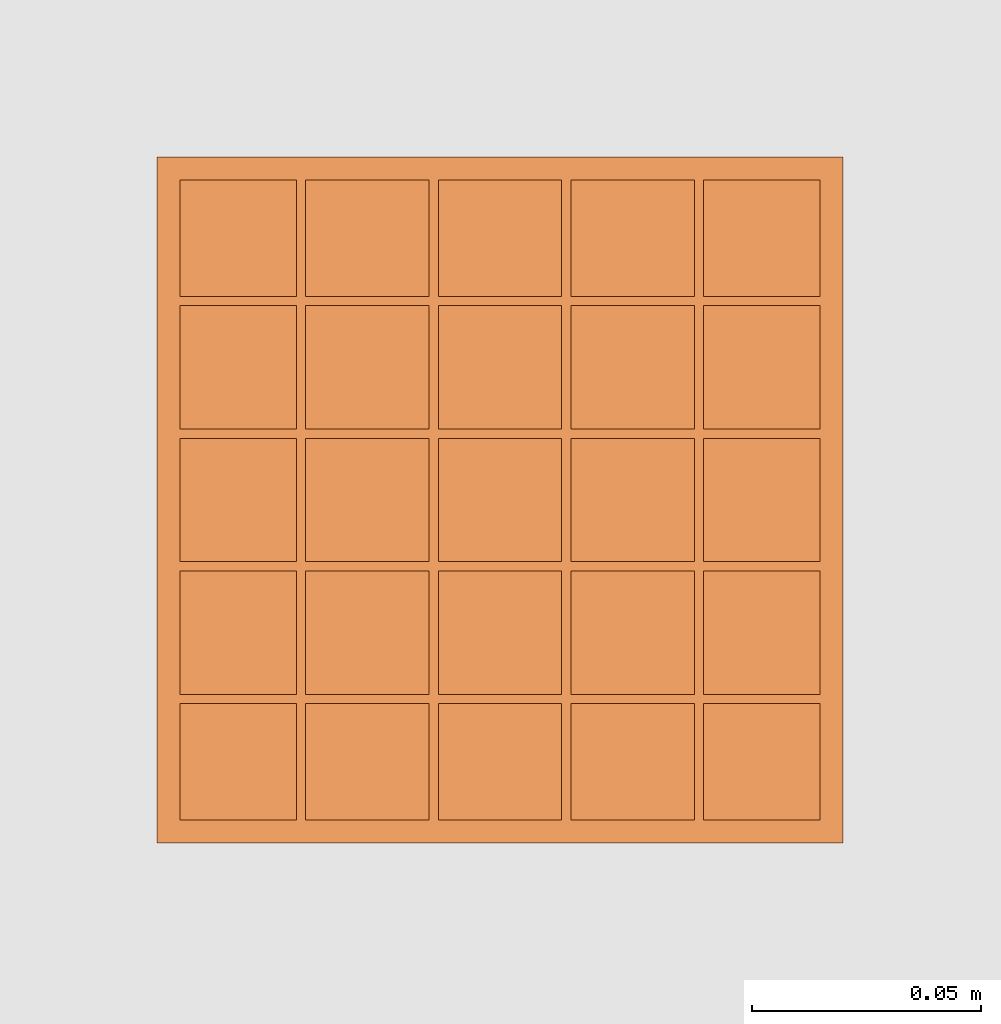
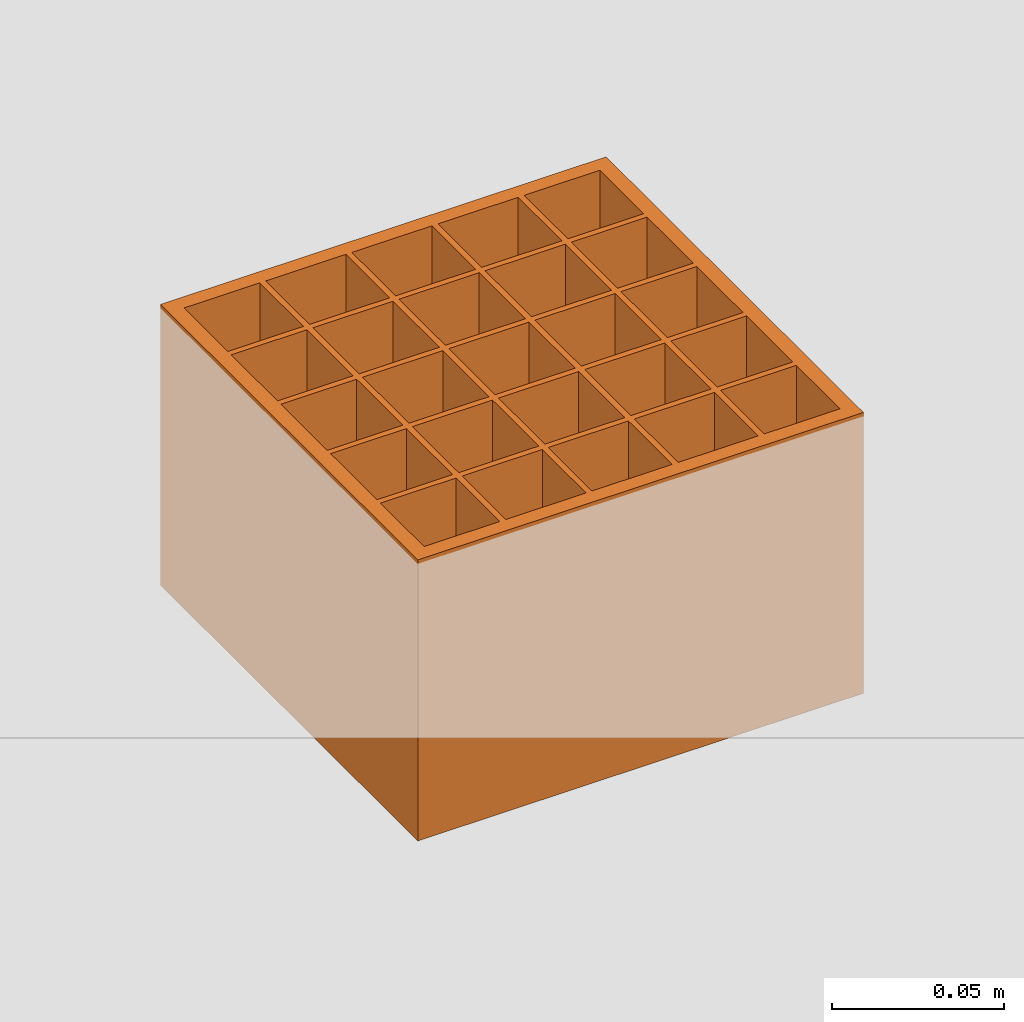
# One storey, part 89 of 112: 1 proxy.
"""IFC2X3 building model written with IfcOpenShell, lengths in millimetres."""

import ifcopenshell
import ifcopenshell.guid

model = None  # the IFC model being written
_history = None  # IfcOwnerHistory: only IFC2X3 demands one
_inside = {}  # id of a spatial element -> (the spatial element, [elements in it])
_under = {}  # id of a project, library or spatial element -> (it, [spatial elements below it])
_declared = {}  # id of a project -> (the project, [libraries it declares])
_typed = {}  # id of a type object -> (the type object, [elements of that type])
_made_of = {}  # id of a material, layer set ... -> (it, [elements and type objects made of it])


def new_model(schema):
    """Start an empty IFC model of exactly this schema.

    Asked for "IFC4X3", IfcOpenShell would pick the latest addendum, in which some entities
    have other attributes; the version numbers below select the first issue.
    IFC2X3 requires an IfcOwnerHistory on every rooted entity: one is made here for all.
    """
    global model, _history
    if schema == "IFC4X3":
        model = ifcopenshell.file(schema_version=(4, 3, 0, 0))
    else:
        model = ifcopenshell.file(schema=schema)
    _inside.clear()
    _under.clear()
    _declared.clear()
    _typed.clear()
    _made_of.clear()
    _history = None
    if model.schema == "IFC2X3":
        org = make("IfcOrganization", Name="unknown")
        user = make(
            "IfcPersonAndOrganization",
            ThePerson=make("IfcPerson", FamilyName="unknown"),
            TheOrganization=org,
        )
        app = make(
            "IfcApplication",
            ApplicationDeveloper=org,
            Version="unknown",
            ApplicationFullName="unknown",
            ApplicationIdentifier="unknown",
        )
        _history = make(
            "IfcOwnerHistory",
            OwningUser=user,
            OwningApplication=app,
            ChangeAction="ADDED",
            CreationDate=0,
        )
    return model


def make(cls, **values):
    """One entity of the class cls with the attributes given. An attribute that is None is left unset."""
    return model.create_entity(
        cls, **{name: value for name, value in values.items() if value is not None}
    )


def entity(cls, *values):
    """Any entity or typed value of the class cls, its attributes in the order of the schema. None: left unset."""
    e = model.create_entity(cls)
    for i, value in enumerate(values):
        if value is not None:
            e[i] = value
    return e


def rooted(cls, **values):
    """An entity with a GlobalId (a new one), such as an element, a storey or a relation."""
    return make(cls, GlobalId=ifcopenshell.guid.new(), OwnerHistory=_history, **values)


def si_unit(unit_type, name, prefix=None):
    """IfcSIUnit, for example si_unit("LENGTHUNIT", "METRE", prefix="MILLI")."""
    return make("IfcSIUnit", UnitType=unit_type, Prefix=prefix, Name=name)


def converted_unit(unit_type, name, factor, base, dimensions=None, offset=None):
    """IfcConversionBasedUnit, such as the inch: factor (a typed value) times the base unit."""
    return make(
        "IfcConversionBasedUnit"
        if offset is None
        else "IfcConversionBasedUnitWithOffset",
        ConversionOffset=offset,
        Dimensions=None
        if dimensions is None
        else entity("IfcDimensionalExponents", *dimensions),
        UnitType=unit_type,
        Name=name,
        ConversionFactor=make(
            "IfcMeasureWithUnit", ValueComponent=factor, UnitComponent=base
        ),
    )


def derived_unit(unit_type, elements):
    """IfcDerivedUnit: a product of units, each with its exponent."""
    return make(
        "IfcDerivedUnit",
        Elements=[
            make("IfcDerivedUnitElement", Unit=unit, Exponent=power)
            for unit, power in elements
        ],
        UnitType=unit_type,
    )


def money_unit(currency):
    """IfcMonetaryUnit."""
    return make("IfcMonetaryUnit", Currency=currency)


def assignment(units):
    """IfcUnitAssignment: the units of a project."""
    return None if units is None else make("IfcUnitAssignment", Units=units)


def point(xyz):
    """IfcCartesianPoint."""
    return None if xyz is None else make("IfcCartesianPoint", Coordinates=xyz)


def direction(xyz):
    """IfcDirection."""
    return None if xyz is None else make("IfcDirection", DirectionRatios=xyz)


def frame(location, z_axis=None, x_axis=None):
    """IfcAxis2Placement3D, a coordinate frame: its origin and axes. An axis left out is left unset."""
    return make(
        "IfcAxis2Placement3D",
        Location=point(location),
        Axis=direction(z_axis),
        RefDirection=direction(x_axis),
    )


def origin_with_axes():
    """The frame at (0, 0, 0) with the z axis (0, 0, 1) and the x axis (1, 0, 0) written out."""
    return frame((0.0, 0.0, 0.0), z_axis=(0.0, 0.0, 1.0), x_axis=(1.0, 0.0, 0.0))


def place(relative_to, where):
    """IfcLocalPlacement: puts the frame where relative to a parent placement (None: the world)."""
    return make(
        "IfcLocalPlacement", PlacementRelTo=relative_to, RelativePlacement=where
    )


def context(
    kind, dimensions, precision=None, world=None, true_north=None, identifier=None
):
    """IfcGeometricRepresentationContext, for example the 3D "Model" context."""
    return make(
        "IfcGeometricRepresentationContext",
        ContextIdentifier=identifier,
        ContextType=kind,
        CoordinateSpaceDimension=dimensions,
        Precision=precision,
        WorldCoordinateSystem=world,
        TrueNorth=true_north,
    )


def subcontext(parent, identifier, kind, view, scale=None):
    """IfcGeometricRepresentationSubContext, for example "Body" below "Model"."""
    return make(
        "IfcGeometricRepresentationSubContext",
        ContextIdentifier=identifier,
        ContextType=kind,
        ParentContext=parent,
        TargetScale=scale,
        TargetView=view,
    )


def project(units=None, contexts=None):
    """IfcProject with its units and contexts."""
    return rooted(
        "IfcProject",
        Name="project",
        RepresentationContexts=contexts,
        UnitsInContext=assignment(units),
    )


def spatial(cls, under=None, at=None, **own):
    """A site, building, storey or space (cls), placed at a placement, below another one or the project."""
    s = rooted(cls, ObjectPlacement=at, **own)
    if under is not None:
        _under.setdefault(under.id(), (under, []))[1].append(s)
    return s


def faces_of(points, faces, orient=None, outer=None):
    """IfcFace entities. A face is a list of loops; a loop is a list of indices into points, from 0.

    orient and outer hold one flag for each loop. By default every Orientation is true, the
    first loop of a face is its IfcFaceOuterBound and the others are IfcFaceBound.
    """
    made = []
    for i, loops in enumerate(faces):
        bounds = []
        for j, loop in enumerate(loops):
            is_outer = j == 0 if outer is None else outer[i][j]
            bounds.append(
                make(
                    "IfcFaceOuterBound" if is_outer else "IfcFaceBound",
                    Bound=make("IfcPolyLoop", Polygon=[points[k] for k in loop]),
                    Orientation=True if orient is None else orient[i][j],
                )
            )
        made.append(make("IfcFace", Bounds=bounds))
    return made


def faceted_brep(points, faces, orient=None, outer=None, voids=None):
    """IfcFacetedBrep: a solid bounded by flat faces; with voids (closed shells), ...WithVoids."""
    shared = [point(p) for p in points]
    hull = make("IfcClosedShell", CfsFaces=faces_of(shared, faces, orient, outer))
    if voids is None:
        return make("IfcFacetedBrep", Outer=hull)
    return make(
        "IfcFacetedBrepWithVoids",
        Outer=hull,
        Voids=[
            make(cls, CfsFaces=faces_of(shared, fs, o, b)) for cls, fs, o, b in voids
        ],
    )


def shape(context_of_items, identifier, shape_type, items):
    """IfcShapeRepresentation: the items that make up one representation, for example the "Body"."""
    return make(
        "IfcShapeRepresentation",
        ContextOfItems=context_of_items,
        RepresentationIdentifier=identifier,
        RepresentationType=shape_type,
        Items=items,
    )


def source(mapping_origin, context_of_items, identifier, shape_type, items):
    """IfcRepresentationMap: a shape defined once, which mapped items show again and again."""
    return make(
        "IfcRepresentationMap",
        MappingOrigin=mapping_origin,
        MappedRepresentation=shape(context_of_items, identifier, shape_type, items),
    )


def transform(
    local_origin,
    x_axis=None,
    y_axis=None,
    z_axis=None,
    scale=None,
    scale2=None,
    scale3=None,
    uniform=True,
):
    """IfcCartesianTransformationOperator3D, or its non-uniform kind. x_axis, y_axis, z_axis: its Axis1, 2, 3."""
    if uniform:
        return make(
            "IfcCartesianTransformationOperator3D",
            Axis1=direction(x_axis),
            Axis2=direction(y_axis),
            LocalOrigin=point(local_origin),
            Scale=scale,
            Axis3=direction(z_axis),
        )
    return make(
        "IfcCartesianTransformationOperator3DnonUniform",
        Axis1=direction(x_axis),
        Axis2=direction(y_axis),
        LocalOrigin=point(local_origin),
        Scale=scale,
        Axis3=direction(z_axis),
        Scale2=scale2,
        Scale3=scale3,
    )


def mapped(mapping_source, mapping_target):
    """IfcMappedItem: shows the shape of a source again, moved by a transform."""
    return make(
        "IfcMappedItem", MappingSource=mapping_source, MappingTarget=mapping_target
    )


def made_of(thing, what):
    """Note that an element or type object is made of a material, layer set ...; save() writes the relation."""
    if what is not None:
        _made_of.setdefault(what.id(), (what, []))[1].append(thing)
    return thing


def type_object(cls, material=None, **own):
    """A type object (cls), such as IfcWallType, which elements share."""
    return made_of(rooted(cls, **own), material)


def element(
    cls,
    number,
    at=None,
    inside=None,
    cuts=None,
    type_object=None,
    material=None,
    context=None,
    identifier="Body",
    shape_type=None,
    held_by="IfcProductDefinitionShape",
    body=None,
    shapes=None,
    **own,
):
    """One element of the class cls, such as IfcWall. Its Tag is "e" and its number.

    at: its placement. inside: the storey or other place that contains it. cuts: it is an
    opening in that element (IfcRelVoidsElement). A single representation is given by context,
    identifier, shape_type and body (its items); several are given by shapes. held_by: the class
    of the entity that holds the representations. save() writes the other relations.
    """
    e = rooted(cls, Tag="e%d" % number, ObjectPlacement=at, **own)
    if body is not None:
        shapes = [shape(context, identifier, shape_type, body)]
    if shapes is not None:
        e.Representation = make(held_by, Representations=shapes)
    if inside is not None:
        _inside.setdefault(inside.id(), (inside, []))[1].append(e)
    if cuts is not None:
        rooted(
            "IfcRelVoidsElement", RelatingBuildingElement=cuts, RelatedOpeningElement=e
        )
    if type_object is not None:
        _typed.setdefault(type_object.id(), (type_object, []))[1].append(e)
    return made_of(e, material)


def aggregate(whole, parts):
    """IfcRelAggregates: a whole, such as a stair, and the parts it consists of."""
    return rooted("IfcRelAggregates", RelatingObject=whole, RelatedObjects=parts)


def save(model, path):
    """Write the relations noted so far, then the file.

    IfcRelAggregates (storeys below a building ...), IfcRelContainedInSpatialStructure (elements
    in a storey), IfcRelDefinesByType, IfcRelAssociatesMaterial and IfcRelDeclares: one each for
    every whole, place, type object, material and project.
    """
    for whole, parts in _under.values():
        aggregate(whole, parts)
    for where, things in _inside.values():
        rooted(
            "IfcRelContainedInSpatialStructure",
            RelatedElements=things,
            RelatingStructure=where,
        )
    for kind, things in _typed.values():
        rooted("IfcRelDefinesByType", RelatedObjects=things, RelatingType=kind)
    for what, things in _made_of.values():
        rooted("IfcRelAssociatesMaterial", RelatedObjects=things, RelatingMaterial=what)
    for by, libraries in _declared.values():
        rooted("IfcRelDeclares", RelatingContext=by, RelatedDefinitions=libraries)
    model.write(path)


model = new_model("IFC2X3")

# Units and contexts
model_context = context("Model", 3, precision=0.01, world=origin_with_axes(), true_north=direction((0.0, 1.0)))
body_context = subcontext(model_context, "Body", "Model", "MODEL_VIEW")
ifc_project = project(units=[si_unit("LENGTHUNIT", "METRE", prefix="MILLI"), si_unit("AREAUNIT", "SQUARE_METRE"), si_unit("VOLUMEUNIT", "CUBIC_METRE"), converted_unit("PLANEANGLEUNIT", "DEGREE", entity("IfcPlaneAngleMeasure", 0.0174532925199), si_unit("PLANEANGLEUNIT", "RADIAN"), dimensions=[0, 0, 0, 0, 0, 0, 0]), si_unit("SOLIDANGLEUNIT", "STERADIAN"), money_unit("EUR"), converted_unit("TIMEUNIT", "Year", entity("IfcTimeMeasure", 31556926.0), si_unit("TIMEUNIT", "SECOND"), dimensions=[0, 0, 1, 0, 0, 0, 0]), si_unit("MASSUNIT", "GRAM", prefix="KILO"), si_unit("THERMODYNAMICTEMPERATUREUNIT", "DEGREE_CELSIUS"), si_unit("LUMINOUSINTENSITYUNIT", "LUMEN"), si_unit("ENERGYUNIT", "JOULE", prefix="MEGA"), derived_unit("THERMALCONDUCTANCEUNIT", [(si_unit("POWERUNIT", "WATT"), 1), (si_unit("LENGTHUNIT", "METRE"), -1), (si_unit("THERMODYNAMICTEMPERATUREUNIT", "KELVIN"), -1)]), derived_unit("SPECIFICHEATCAPACITYUNIT", [(si_unit("ENERGYUNIT", "JOULE"), 1), (si_unit("MASSUNIT", "GRAM", prefix="KILO"), -1), (si_unit("THERMODYNAMICTEMPERATUREUNIT", "KELVIN"), -1)]), derived_unit("MASSDENSITYUNIT", [(si_unit("MASSUNIT", "GRAM", prefix="KILO"), 1), (si_unit("VOLUMEUNIT", "CUBIC_METRE"), -1)])], contexts=[model_context])

# Site, building, storey
site_placement = place(None, origin_with_axes())
site = spatial("IfcSite", under=ifc_project, at=site_placement, Name="Politse- ja Piirivalveameti ning Päästeameti ühishoone", CompositionType="ELEMENT")
building_placement = place(site_placement, origin_with_axes())
building = spatial("IfcBuilding", under=site, at=building_placement, Name="Politse- ja Piirivalveameti ning Päästeameti ühishoone", CompositionType="ELEMENT")
storey_placement = place(building_placement, origin_with_axes())
storey = spatial("IfcBuildingStorey", under=building, at=storey_placement, Name="Esimene korrus", CompositionType="ELEMENT", Elevation=0.0)

# Proxy
building_element_proxy_type = type_object("IfcBuildingElementProxyType", Name="Grid 23", PredefinedType="NOTDEFINED")
shared_shape = source(origin_with_axes(), body_context, "Body", "Brep", [
    faceted_brep([(0.0, 0.0, 0.0), (5.0, 5.0, 0.0), (5.0, 5.0, 100.0), (0.0, 0.0, 100.0), (0.0, 150.0, 0.0), (5.0, 145.0, 0.0), (5.0, 119.5, 0.0), (5.0, 117.5, 0.0), (5.0, 90.5, 0.0), (5.0, 88.5, 0.0), (5.0, 61.5, 0.0), (5.0, 59.5, 0.0), (5.0, 32.5, 0.0), (5.0, 30.5, 0.0), (5.0, 30.5, 100.0), (5.0, 32.5, 100.0), (5.0, 59.5, 100.0), (5.0, 61.5, 100.0), (5.0, 88.5, 100.0), (5.0, 90.5, 100.0), (5.0, 117.5, 100.0), (5.0, 119.5, 100.0), (5.0, 145.0, 100.0), (0.0, 150.0, 100.0)], [[[0, 1, 2, 3]], [[0, 4, 5, 6, 7, 8, 9, 10, 11, 12, 13, 1]], [[1, 13, 14, 2]], [[3, 2, 14, 15, 16, 17, 18, 19, 20, 21, 22, 23]], [[4, 0, 3, 23]], [[5, 4, 23, 22]], [[6, 5, 22, 21]], [[7, 6, 21, 20]], [[8, 7, 20, 19]], [[9, 8, 19, 18]], [[10, 9, 18, 17]], [[11, 10, 17, 16]], [[12, 11, 16, 15]], [[13, 12, 15, 14]]]),
    faceted_brep([(150.0, 150.0, 0.0), (145.0, 145.0, 0.0), (145.0, 145.0, 100.0), (150.0, 150.0, 100.0), (150.0, 0.0, 0.0), (145.0, 5.0, 0.0), (145.0, 30.5, 0.0), (145.0, 32.5, 0.0), (145.0, 59.5, 0.0), (145.0, 61.5, 0.0), (145.0, 88.5, 0.0), (145.0, 90.5, 0.0), (145.0, 117.5, 0.0), (145.0, 119.5, 0.0), (145.0, 119.5, 100.0), (145.0, 117.5, 100.0), (145.0, 90.5, 100.0), (145.0, 88.5, 100.0), (145.0, 61.5, 100.0), (145.0, 59.5, 100.0), (145.0, 32.5, 100.0), (145.0, 30.5, 100.0), (145.0, 5.0, 100.0), (150.0, 0.0, 100.0)], [[[0, 1, 2, 3]], [[0, 4, 5, 6, 7, 8, 9, 10, 11, 12, 13, 1]], [[1, 13, 14, 2]], [[3, 2, 14, 15, 16, 17, 18, 19, 20, 21, 22, 23]], [[4, 0, 3, 23]], [[5, 4, 23, 22]], [[6, 5, 22, 21]], [[7, 6, 21, 20]], [[8, 7, 20, 19]], [[9, 8, 19, 18]], [[10, 9, 18, 17]], [[11, 10, 17, 16]], [[12, 11, 16, 15]], [[13, 12, 15, 14]]]),
    faceted_brep([(150.0, 0.0, 0.0), (145.0, 5.0, 0.0), (145.0, 5.0, 100.0), (150.0, 0.0, 100.0), (0.0, 0.0, 0.0), (5.0, 5.0, 0.0), (30.5, 5.0, 0.0), (32.5, 5.0, 0.0), (59.5, 5.0, 0.0), (61.5, 5.0, 0.0), (88.5, 5.0, 0.0), (90.5, 5.0, 0.0), (117.5, 5.0, 0.0), (119.5, 5.0, 0.0), (119.5, 5.0, 100.0), (117.5, 5.0, 100.0), (90.5, 5.0, 100.0), (88.5, 5.0, 100.0), (61.5, 5.0, 100.0), (59.5, 5.0, 100.0), (32.5, 5.0, 100.0), (30.5, 5.0, 100.0), (5.0, 5.0, 100.0), (0.0, 0.0, 100.0)], [[[0, 1, 2, 3]], [[0, 4, 5, 6, 7, 8, 9, 10, 11, 12, 13, 1]], [[1, 13, 14, 2]], [[3, 2, 14, 15, 16, 17, 18, 19, 20, 21, 22, 23]], [[4, 0, 3, 23]], [[5, 4, 23, 22]], [[6, 5, 22, 21]], [[7, 6, 21, 20]], [[8, 7, 20, 19]], [[9, 8, 19, 18]], [[10, 9, 18, 17]], [[11, 10, 17, 16]], [[12, 11, 16, 15]], [[13, 12, 15, 14]]]),
    faceted_brep([(0.0, 150.0, 0.0), (5.0, 145.0, 0.0), (5.0, 145.0, 100.0), (0.0, 150.0, 100.0), (150.0, 150.0, 0.0), (145.0, 145.0, 0.0), (119.5, 145.0, 0.0), (117.5, 145.0, 0.0), (90.5, 145.0, 0.0), (88.5, 145.0, 0.0), (61.5, 145.0, 0.0), (59.5, 145.0, 0.0), (32.5, 145.0, 0.0), (30.5, 145.0, 0.0), (30.5, 145.0, 100.0), (32.5, 145.0, 100.0), (59.5, 145.0, 100.0), (61.5, 145.0, 100.0), (88.5, 145.0, 100.0), (90.5, 145.0, 100.0), (117.5, 145.0, 100.0), (119.5, 145.0, 100.0), (145.0, 145.0, 100.0), (150.0, 150.0, 100.0)], [[[0, 1, 2, 3]], [[0, 4, 5, 6, 7, 8, 9, 10, 11, 12, 13, 1]], [[1, 13, 14, 2]], [[3, 2, 14, 15, 16, 17, 18, 19, 20, 21, 22, 23]], [[4, 0, 3, 23]], [[5, 4, 23, 22]], [[6, 5, 22, 21]], [[7, 6, 21, 20]], [[8, 7, 20, 19]], [[9, 8, 19, 18]], [[10, 9, 18, 17]], [[11, 10, 17, 16]], [[12, 11, 16, 15]], [[13, 12, 15, 14]]]),
    faceted_brep([(30.5, 5.0, 0.0), (32.5, 5.0, 0.0), (32.5, 5.0, 100.0), (30.5, 5.0, 100.0), (30.5, 30.5, 0.0), (30.5, 32.5, 0.0), (30.5, 59.5, 0.0), (30.5, 61.5, 0.0), (30.5, 88.5, 0.0), (30.5, 90.5, 0.0), (30.5, 117.5, 0.0), (30.5, 119.5, 0.0), (30.5, 145.0, 0.0), (32.5, 145.0, 0.0), (32.5, 119.5, 0.0), (32.5, 117.5, 0.0), (32.5, 90.5, 0.0), (32.5, 88.5, 0.0), (32.5, 61.5, 0.0), (32.5, 59.5, 0.0), (32.5, 32.5, 0.0), (32.5, 30.5, 0.0), (32.5, 30.5, 100.0), (32.5, 32.5, 100.0), (32.5, 59.5, 100.0), (32.5, 61.5, 100.0), (32.5, 88.5, 100.0), (32.5, 90.5, 100.0), (32.5, 117.5, 100.0), (32.5, 119.5, 100.0), (32.5, 145.0, 100.0), (30.5, 145.0, 100.0), (30.5, 119.5, 100.0), (30.5, 117.5, 100.0), (30.5, 90.5, 100.0), (30.5, 88.5, 100.0), (30.5, 61.5, 100.0), (30.5, 59.5, 100.0), (30.5, 32.5, 100.0), (30.5, 30.5, 100.0)], [[[0, 1, 2, 3]], [[0, 4, 5, 6, 7, 8, 9, 10, 11, 12, 13, 14, 15, 16, 17, 18, 19, 20, 21, 1]], [[1, 21, 22, 2]], [[3, 2, 22, 23, 24, 25, 26, 27, 28, 29, 30, 31, 32, 33, 34, 35, 36, 37, 38, 39]], [[4, 0, 3, 39]], [[5, 4, 39, 38]], [[6, 5, 38, 37]], [[7, 6, 37, 36]], [[8, 7, 36, 35]], [[9, 8, 35, 34]], [[10, 9, 34, 33]], [[11, 10, 33, 32]], [[12, 11, 32, 31]], [[13, 12, 31, 30]], [[14, 13, 30, 29]], [[15, 14, 29, 28]], [[16, 15, 28, 27]], [[17, 16, 27, 26]], [[18, 17, 26, 25]], [[19, 18, 25, 24]], [[20, 19, 24, 23]], [[21, 20, 23, 22]]]),
    faceted_brep([(59.5, 5.0, 0.0), (61.5, 5.0, 0.0), (61.5, 5.0, 100.0), (59.5, 5.0, 100.0), (59.5, 30.5, 0.0), (59.5, 32.5, 0.0), (59.5, 59.5, 0.0), (59.5, 61.5, 0.0), (59.5, 88.5, 0.0), (59.5, 90.5, 0.0), (59.5, 117.5, 0.0), (59.5, 119.5, 0.0), (59.5, 145.0, 0.0), (61.5, 145.0, 0.0), (61.5, 119.5, 0.0), (61.5, 117.5, 0.0), (61.5, 90.5, 0.0), (61.5, 88.5, 0.0), (61.5, 61.5, 0.0), (61.5, 59.5, 0.0), (61.5, 32.5, 0.0), (61.5, 30.5, 0.0), (61.5, 30.5, 100.0), (61.5, 32.5, 100.0), (61.5, 59.5, 100.0), (61.5, 61.5, 100.0), (61.5, 88.5, 100.0), (61.5, 90.5, 100.0), (61.5, 117.5, 100.0), (61.5, 119.5, 100.0), (61.5, 145.0, 100.0), (59.5, 145.0, 100.0), (59.5, 119.5, 100.0), (59.5, 117.5, 100.0), (59.5, 90.5, 100.0), (59.5, 88.5, 100.0), (59.5, 61.5, 100.0), (59.5, 59.5, 100.0), (59.5, 32.5, 100.0), (59.5, 30.5, 100.0)], [[[0, 1, 2, 3]], [[0, 4, 5, 6, 7, 8, 9, 10, 11, 12, 13, 14, 15, 16, 17, 18, 19, 20, 21, 1]], [[1, 21, 22, 2]], [[3, 2, 22, 23, 24, 25, 26, 27, 28, 29, 30, 31, 32, 33, 34, 35, 36, 37, 38, 39]], [[4, 0, 3, 39]], [[5, 4, 39, 38]], [[6, 5, 38, 37]], [[7, 6, 37, 36]], [[8, 7, 36, 35]], [[9, 8, 35, 34]], [[10, 9, 34, 33]], [[11, 10, 33, 32]], [[12, 11, 32, 31]], [[13, 12, 31, 30]], [[14, 13, 30, 29]], [[15, 14, 29, 28]], [[16, 15, 28, 27]], [[17, 16, 27, 26]], [[18, 17, 26, 25]], [[19, 18, 25, 24]], [[20, 19, 24, 23]], [[21, 20, 23, 22]]]),
    faceted_brep([(88.5, 5.0, 0.0), (90.5, 5.0, 0.0), (90.5, 5.0, 100.0), (88.5, 5.0, 100.0), (88.5, 30.5, 0.0), (88.5, 32.5, 0.0), (88.5, 59.5, 0.0), (88.5, 61.5, 0.0), (88.5, 88.5, 0.0), (88.5, 90.5, 0.0), (88.5, 117.5, 0.0), (88.5, 119.5, 0.0), (88.5, 145.0, 0.0), (90.5, 145.0, 0.0), (90.5, 119.5, 0.0), (90.5, 117.5, 0.0), (90.5, 90.5, 0.0), (90.5, 88.5, 0.0), (90.5, 61.5, 0.0), (90.5, 59.5, 0.0), (90.5, 32.5, 0.0), (90.5, 30.5, 0.0), (90.5, 30.5, 100.0), (90.5, 32.5, 100.0), (90.5, 59.5, 100.0), (90.5, 61.5, 100.0), (90.5, 88.5, 100.0), (90.5, 90.5, 100.0), (90.5, 117.5, 100.0), (90.5, 119.5, 100.0), (90.5, 145.0, 100.0), (88.5, 145.0, 100.0), (88.5, 119.5, 100.0), (88.5, 117.5, 100.0), (88.5, 90.5, 100.0), (88.5, 88.5, 100.0), (88.5, 61.5, 100.0), (88.5, 59.5, 100.0), (88.5, 32.5, 100.0), (88.5, 30.5, 100.0)], [[[0, 1, 2, 3]], [[0, 4, 5, 6, 7, 8, 9, 10, 11, 12, 13, 14, 15, 16, 17, 18, 19, 20, 21, 1]], [[1, 21, 22, 2]], [[3, 2, 22, 23, 24, 25, 26, 27, 28, 29, 30, 31, 32, 33, 34, 35, 36, 37, 38, 39]], [[4, 0, 3, 39]], [[5, 4, 39, 38]], [[6, 5, 38, 37]], [[7, 6, 37, 36]], [[8, 7, 36, 35]], [[9, 8, 35, 34]], [[10, 9, 34, 33]], [[11, 10, 33, 32]], [[12, 11, 32, 31]], [[13, 12, 31, 30]], [[14, 13, 30, 29]], [[15, 14, 29, 28]], [[16, 15, 28, 27]], [[17, 16, 27, 26]], [[18, 17, 26, 25]], [[19, 18, 25, 24]], [[20, 19, 24, 23]], [[21, 20, 23, 22]]]),
    faceted_brep([(117.5, 5.0, 0.0), (119.5, 5.0, 0.0), (119.5, 5.0, 100.0), (117.5, 5.0, 100.0), (117.5, 30.5, 0.0), (117.5, 32.5, 0.0), (117.5, 59.5, 0.0), (117.5, 61.5, 0.0), (117.5, 88.5, 0.0), (117.5, 90.5, 0.0), (117.5, 117.5, 0.0), (117.5, 119.5, 0.0), (117.5, 145.0, 0.0), (119.5, 145.0, 0.0), (119.5, 119.5, 0.0), (119.5, 117.5, 0.0), (119.5, 90.5, 0.0), (119.5, 88.5, 0.0), (119.5, 61.5, 0.0), (119.5, 59.5, 0.0), (119.5, 32.5, 0.0), (119.5, 30.5, 0.0), (119.5, 30.5, 100.0), (119.5, 32.5, 100.0), (119.5, 59.5, 100.0), (119.5, 61.5, 100.0), (119.5, 88.5, 100.0), (119.5, 90.5, 100.0), (119.5, 117.5, 100.0), (119.5, 119.5, 100.0), (119.5, 145.0, 100.0), (117.5, 145.0, 100.0), (117.5, 119.5, 100.0), (117.5, 117.5, 100.0), (117.5, 90.5, 100.0), (117.5, 88.5, 100.0), (117.5, 61.5, 100.0), (117.5, 59.5, 100.0), (117.5, 32.5, 100.0), (117.5, 30.5, 100.0)], [[[0, 1, 2, 3]], [[0, 4, 5, 6, 7, 8, 9, 10, 11, 12, 13, 14, 15, 16, 17, 18, 19, 20, 21, 1]], [[1, 21, 22, 2]], [[3, 2, 22, 23, 24, 25, 26, 27, 28, 29, 30, 31, 32, 33, 34, 35, 36, 37, 38, 39]], [[4, 0, 3, 39]], [[5, 4, 39, 38]], [[6, 5, 38, 37]], [[7, 6, 37, 36]], [[8, 7, 36, 35]], [[9, 8, 35, 34]], [[10, 9, 34, 33]], [[11, 10, 33, 32]], [[12, 11, 32, 31]], [[13, 12, 31, 30]], [[14, 13, 30, 29]], [[15, 14, 29, 28]], [[16, 15, 28, 27]], [[17, 16, 27, 26]], [[18, 17, 26, 25]], [[19, 18, 25, 24]], [[20, 19, 24, 23]], [[21, 20, 23, 22]]]),
    faceted_brep([(30.5, 30.5, 0.0), (30.5, 32.5, 0.0), (30.5, 32.5, 100.0), (30.5, 30.5, 100.0), (5.0, 30.5, 0.0), (5.0, 32.5, 0.0), (5.0, 32.5, 100.0), (5.0, 30.5, 100.0)], [[[0, 1, 2, 3]], [[0, 4, 5, 1]], [[1, 5, 6, 2]], [[3, 2, 6, 7]], [[4, 0, 3, 7]], [[5, 4, 7, 6]]]),
    faceted_brep([(30.5, 59.5, 0.0), (30.5, 61.5, 0.0), (30.5, 61.5, 100.0), (30.5, 59.5, 100.0), (5.0, 59.5, 0.0), (5.0, 61.5, 0.0), (5.0, 61.5, 100.0), (5.0, 59.5, 100.0)], [[[0, 1, 2, 3]], [[0, 4, 5, 1]], [[1, 5, 6, 2]], [[3, 2, 6, 7]], [[4, 0, 3, 7]], [[5, 4, 7, 6]]]),
    faceted_brep([(30.5, 88.5, 0.0), (30.5, 90.5, 0.0), (30.5, 90.5, 100.0), (30.5, 88.5, 100.0), (5.0, 88.5, 0.0), (5.0, 90.5, 0.0), (5.0, 90.5, 100.0), (5.0, 88.5, 100.0)], [[[0, 1, 2, 3]], [[0, 4, 5, 1]], [[1, 5, 6, 2]], [[3, 2, 6, 7]], [[4, 0, 3, 7]], [[5, 4, 7, 6]]]),
    faceted_brep([(30.5, 117.5, 0.0), (30.5, 119.5, 0.0), (30.5, 119.5, 100.0), (30.5, 117.5, 100.0), (5.0, 117.5, 0.0), (5.0, 119.5, 0.0), (5.0, 119.5, 100.0), (5.0, 117.5, 100.0)], [[[0, 1, 2, 3]], [[0, 4, 5, 1]], [[1, 5, 6, 2]], [[3, 2, 6, 7]], [[4, 0, 3, 7]], [[5, 4, 7, 6]]]),
    faceted_brep([(59.5, 30.5, 0.0), (59.5, 32.5, 0.0), (59.5, 32.5, 100.0), (59.5, 30.5, 100.0), (32.5, 30.5, 0.0), (32.5, 32.5, 0.0), (32.5, 32.5, 100.0), (32.5, 30.5, 100.0)], [[[0, 1, 2, 3]], [[0, 4, 5, 1]], [[1, 5, 6, 2]], [[3, 2, 6, 7]], [[4, 0, 3, 7]], [[5, 4, 7, 6]]]),
    faceted_brep([(59.5, 59.5, 0.0), (59.5, 61.5, 0.0), (59.5, 61.5, 100.0), (59.5, 59.5, 100.0), (32.5, 59.5, 0.0), (32.5, 61.5, 0.0), (32.5, 61.5, 100.0), (32.5, 59.5, 100.0)], [[[0, 1, 2, 3]], [[0, 4, 5, 1]], [[1, 5, 6, 2]], [[3, 2, 6, 7]], [[4, 0, 3, 7]], [[5, 4, 7, 6]]]),
    faceted_brep([(59.5, 88.5, 0.0), (59.5, 90.5, 0.0), (59.5, 90.5, 100.0), (59.5, 88.5, 100.0), (32.5, 88.5, 0.0), (32.5, 90.5, 0.0), (32.5, 90.5, 100.0), (32.5, 88.5, 100.0)], [[[0, 1, 2, 3]], [[0, 4, 5, 1]], [[1, 5, 6, 2]], [[3, 2, 6, 7]], [[4, 0, 3, 7]], [[5, 4, 7, 6]]]),
    faceted_brep([(59.5, 117.5, 0.0), (59.5, 119.5, 0.0), (59.5, 119.5, 100.0), (59.5, 117.5, 100.0), (32.5, 117.5, 0.0), (32.5, 119.5, 0.0), (32.5, 119.5, 100.0), (32.5, 117.5, 100.0)], [[[0, 1, 2, 3]], [[0, 4, 5, 1]], [[1, 5, 6, 2]], [[3, 2, 6, 7]], [[4, 0, 3, 7]], [[5, 4, 7, 6]]]),
    faceted_brep([(88.5, 30.5, 0.0), (88.5, 32.5, 0.0), (88.5, 32.5, 100.0), (88.5, 30.5, 100.0), (61.5, 30.5, 0.0), (61.5, 32.5, 0.0), (61.5, 32.5, 100.0), (61.5, 30.5, 100.0)], [[[0, 1, 2, 3]], [[0, 4, 5, 1]], [[1, 5, 6, 2]], [[3, 2, 6, 7]], [[4, 0, 3, 7]], [[5, 4, 7, 6]]]),
    faceted_brep([(88.5, 59.5, 0.0), (88.5, 61.5, 0.0), (88.5, 61.5, 100.0), (88.5, 59.5, 100.0), (61.5, 59.5, 0.0), (61.5, 61.5, 0.0), (61.5, 61.5, 100.0), (61.5, 59.5, 100.0)], [[[0, 1, 2, 3]], [[0, 4, 5, 1]], [[1, 5, 6, 2]], [[3, 2, 6, 7]], [[4, 0, 3, 7]], [[5, 4, 7, 6]]]),
    faceted_brep([(88.5, 88.5, 0.0), (88.5, 90.5, 0.0), (88.5, 90.5, 100.0), (88.5, 88.5, 100.0), (61.5, 88.5, 0.0), (61.5, 90.5, 0.0), (61.5, 90.5, 100.0), (61.5, 88.5, 100.0)], [[[0, 1, 2, 3]], [[0, 4, 5, 1]], [[1, 5, 6, 2]], [[3, 2, 6, 7]], [[4, 0, 3, 7]], [[5, 4, 7, 6]]]),
    faceted_brep([(88.5, 117.5, 0.0), (88.5, 119.5, 0.0), (88.5, 119.5, 100.0), (88.5, 117.5, 100.0), (61.5, 117.5, 0.0), (61.5, 119.5, 0.0), (61.5, 119.5, 100.0), (61.5, 117.5, 100.0)], [[[0, 1, 2, 3]], [[0, 4, 5, 1]], [[1, 5, 6, 2]], [[3, 2, 6, 7]], [[4, 0, 3, 7]], [[5, 4, 7, 6]]]),
    faceted_brep([(117.5, 30.5, 0.0), (117.5, 32.5, 0.0), (117.5, 32.5, 100.0), (117.5, 30.5, 100.0), (90.5, 30.5, 0.0), (90.5, 32.5, 0.0), (90.5, 32.5, 100.0), (90.5, 30.5, 100.0)], [[[0, 1, 2, 3]], [[0, 4, 5, 1]], [[1, 5, 6, 2]], [[3, 2, 6, 7]], [[4, 0, 3, 7]], [[5, 4, 7, 6]]]),
    faceted_brep([(117.5, 59.5, 0.0), (117.5, 61.5, 0.0), (117.5, 61.5, 100.0), (117.5, 59.5, 100.0), (90.5, 59.5, 0.0), (90.5, 61.5, 0.0), (90.5, 61.5, 100.0), (90.5, 59.5, 100.0)], [[[0, 1, 2, 3]], [[0, 4, 5, 1]], [[1, 5, 6, 2]], [[3, 2, 6, 7]], [[4, 0, 3, 7]], [[5, 4, 7, 6]]]),
    faceted_brep([(117.5, 88.5, 0.0), (117.5, 90.5, 0.0), (117.5, 90.5, 100.0), (117.5, 88.5, 100.0), (90.5, 88.5, 0.0), (90.5, 90.5, 0.0), (90.5, 90.5, 100.0), (90.5, 88.5, 100.0)], [[[0, 1, 2, 3]], [[0, 4, 5, 1]], [[1, 5, 6, 2]], [[3, 2, 6, 7]], [[4, 0, 3, 7]], [[5, 4, 7, 6]]]),
    faceted_brep([(117.5, 117.5, 0.0), (117.5, 119.5, 0.0), (117.5, 119.5, 100.0), (117.5, 117.5, 100.0), (90.5, 117.5, 0.0), (90.5, 119.5, 0.0), (90.5, 119.5, 100.0), (90.5, 117.5, 100.0)], [[[0, 1, 2, 3]], [[0, 4, 5, 1]], [[1, 5, 6, 2]], [[3, 2, 6, 7]], [[4, 0, 3, 7]], [[5, 4, 7, 6]]]),
    faceted_brep([(145.0, 30.5, 0.0), (145.0, 32.5, 0.0), (145.0, 32.5, 100.0), (145.0, 30.5, 100.0), (119.5, 30.5, 0.0), (119.5, 32.5, 0.0), (119.5, 32.5, 100.0), (119.5, 30.5, 100.0)], [[[0, 1, 2, 3]], [[0, 4, 5, 1]], [[1, 5, 6, 2]], [[3, 2, 6, 7]], [[4, 0, 3, 7]], [[5, 4, 7, 6]]]),
    faceted_brep([(145.0, 59.5, 0.0), (145.0, 61.5, 0.0), (145.0, 61.5, 100.0), (145.0, 59.5, 100.0), (119.5, 59.5, 0.0), (119.5, 61.5, 0.0), (119.5, 61.5, 100.0), (119.5, 59.5, 100.0)], [[[0, 1, 2, 3]], [[0, 4, 5, 1]], [[1, 5, 6, 2]], [[3, 2, 6, 7]], [[4, 0, 3, 7]], [[5, 4, 7, 6]]]),
    faceted_brep([(145.0, 88.5, 0.0), (145.0, 90.5, 0.0), (145.0, 90.5, 100.0), (145.0, 88.5, 100.0), (119.5, 88.5, 0.0), (119.5, 90.5, 0.0), (119.5, 90.5, 100.0), (119.5, 88.5, 100.0)], [[[0, 1, 2, 3]], [[0, 4, 5, 1]], [[1, 5, 6, 2]], [[3, 2, 6, 7]], [[4, 0, 3, 7]], [[5, 4, 7, 6]]]),
    faceted_brep([(145.0, 117.5, 0.0), (145.0, 119.5, 0.0), (145.0, 119.5, 100.0), (145.0, 117.5, 100.0), (119.5, 117.5, 0.0), (119.5, 119.5, 0.0), (119.5, 119.5, 100.0), (119.5, 117.5, 100.0)], [[[0, 1, 2, 3]], [[0, 4, 5, 1]], [[1, 5, 6, 2]], [[3, 2, 6, 7]], [[4, 0, 3, 7]], [[5, 4, 7, 6]]]),
    faceted_brep([(5.0, 5.0, 43.65), (30.5, 5.0, 43.65), (30.5, 5.0, 56.35), (5.0, 5.0, 56.35), (5.0, 30.5, 43.65), (30.5, 30.5, 43.65), (30.5, 30.5, 56.35), (5.0, 30.5, 56.35)], [[[0, 1, 2, 3]], [[0, 4, 5, 1]], [[1, 5, 6, 2]], [[3, 2, 6, 7]], [[4, 0, 3, 7]], [[5, 4, 7, 6]]]),
    faceted_brep([(5.0, 32.5, 43.65), (30.5, 32.5, 43.65), (30.5, 32.5, 56.35), (5.0, 32.5, 56.35), (5.0, 59.5, 43.65), (30.5, 59.5, 43.65), (30.5, 59.5, 56.35), (5.0, 59.5, 56.35)], [[[0, 1, 2, 3]], [[0, 4, 5, 1]], [[1, 5, 6, 2]], [[3, 2, 6, 7]], [[4, 0, 3, 7]], [[5, 4, 7, 6]]]),
    faceted_brep([(5.0, 61.5, 43.65), (30.5, 61.5, 43.65), (30.5, 61.5, 56.35), (5.0, 61.5, 56.35), (5.0, 88.5, 43.65), (30.5, 88.5, 43.65), (30.5, 88.5, 56.35), (5.0, 88.5, 56.35)], [[[0, 1, 2, 3]], [[0, 4, 5, 1]], [[1, 5, 6, 2]], [[3, 2, 6, 7]], [[4, 0, 3, 7]], [[5, 4, 7, 6]]]),
    faceted_brep([(5.0, 90.5, 43.65), (30.5, 90.5, 43.65), (30.5, 90.5, 56.35), (5.0, 90.5, 56.35), (5.0, 117.5, 43.65), (30.5, 117.5, 43.65), (30.5, 117.5, 56.35), (5.0, 117.5, 56.35)], [[[0, 1, 2, 3]], [[0, 4, 5, 1]], [[1, 5, 6, 2]], [[3, 2, 6, 7]], [[4, 0, 3, 7]], [[5, 4, 7, 6]]]),
    faceted_brep([(5.0, 119.5, 43.65), (30.5, 119.5, 43.65), (30.5, 119.5, 56.35), (5.0, 119.5, 56.35), (5.0, 145.0, 43.65), (30.5, 145.0, 43.65), (30.5, 145.0, 56.35), (5.0, 145.0, 56.35)], [[[0, 1, 2, 3]], [[0, 4, 5, 1]], [[1, 5, 6, 2]], [[3, 2, 6, 7]], [[4, 0, 3, 7]], [[5, 4, 7, 6]]]),
    faceted_brep([(32.5, 5.0, 43.65), (59.5, 5.0, 43.65), (59.5, 5.0, 56.35), (32.5, 5.0, 56.35), (32.5, 30.5, 43.65), (59.5, 30.5, 43.65), (59.5, 30.5, 56.35), (32.5, 30.5, 56.35)], [[[0, 1, 2, 3]], [[0, 4, 5, 1]], [[1, 5, 6, 2]], [[3, 2, 6, 7]], [[4, 0, 3, 7]], [[5, 4, 7, 6]]]),
    faceted_brep([(32.5, 32.5, 43.65), (59.5, 32.5, 43.65), (59.5, 32.5, 56.35), (32.5, 32.5, 56.35), (32.5, 59.5, 43.65), (59.5, 59.5, 43.65), (59.5, 59.5, 56.35), (32.5, 59.5, 56.35)], [[[0, 1, 2, 3]], [[0, 4, 5, 1]], [[1, 5, 6, 2]], [[3, 2, 6, 7]], [[4, 0, 3, 7]], [[5, 4, 7, 6]]]),
    faceted_brep([(32.5, 61.5, 43.65), (59.5, 61.5, 43.65), (59.5, 61.5, 56.35), (32.5, 61.5, 56.35), (32.5, 88.5, 43.65), (59.5, 88.5, 43.65), (59.5, 88.5, 56.35), (32.5, 88.5, 56.35)], [[[0, 1, 2, 3]], [[0, 4, 5, 1]], [[1, 5, 6, 2]], [[3, 2, 6, 7]], [[4, 0, 3, 7]], [[5, 4, 7, 6]]]),
    faceted_brep([(32.5, 90.5, 43.65), (59.5, 90.5, 43.65), (59.5, 90.5, 56.35), (32.5, 90.5, 56.35), (32.5, 117.5, 43.65), (59.5, 117.5, 43.65), (59.5, 117.5, 56.35), (32.5, 117.5, 56.35)], [[[0, 1, 2, 3]], [[0, 4, 5, 1]], [[1, 5, 6, 2]], [[3, 2, 6, 7]], [[4, 0, 3, 7]], [[5, 4, 7, 6]]]),
    faceted_brep([(32.5, 119.5, 43.65), (59.5, 119.5, 43.65), (59.5, 119.5, 56.35), (32.5, 119.5, 56.35), (32.5, 145.0, 43.65), (59.5, 145.0, 43.65), (59.5, 145.0, 56.35), (32.5, 145.0, 56.35)], [[[0, 1, 2, 3]], [[0, 4, 5, 1]], [[1, 5, 6, 2]], [[3, 2, 6, 7]], [[4, 0, 3, 7]], [[5, 4, 7, 6]]]),
    faceted_brep([(61.5, 5.0, 43.65), (88.5, 5.0, 43.65), (88.5, 5.0, 56.35), (61.5, 5.0, 56.35), (61.5, 30.5, 43.65), (88.5, 30.5, 43.65), (88.5, 30.5, 56.35), (61.5, 30.5, 56.35)], [[[0, 1, 2, 3]], [[0, 4, 5, 1]], [[1, 5, 6, 2]], [[3, 2, 6, 7]], [[4, 0, 3, 7]], [[5, 4, 7, 6]]]),
    faceted_brep([(61.5, 32.5, 43.65), (88.5, 32.5, 43.65), (88.5, 32.5, 56.35), (61.5, 32.5, 56.35), (61.5, 59.5, 43.65), (88.5, 59.5, 43.65), (88.5, 59.5, 56.35), (61.5, 59.5, 56.35)], [[[0, 1, 2, 3]], [[0, 4, 5, 1]], [[1, 5, 6, 2]], [[3, 2, 6, 7]], [[4, 0, 3, 7]], [[5, 4, 7, 6]]]),
    faceted_brep([(61.5, 61.5, 43.65), (88.5, 61.5, 43.65), (88.5, 61.5, 56.35), (61.5, 61.5, 56.35), (61.5, 88.5, 43.65), (88.5, 88.5, 43.65), (88.5, 88.5, 56.35), (61.5, 88.5, 56.35)], [[[0, 1, 2, 3]], [[0, 4, 5, 1]], [[1, 5, 6, 2]], [[3, 2, 6, 7]], [[4, 0, 3, 7]], [[5, 4, 7, 6]]]),
    faceted_brep([(61.5, 90.5, 43.65), (88.5, 90.5, 43.65), (88.5, 90.5, 56.35), (61.5, 90.5, 56.35), (61.5, 117.5, 43.65), (88.5, 117.5, 43.65), (88.5, 117.5, 56.35), (61.5, 117.5, 56.35)], [[[0, 1, 2, 3]], [[0, 4, 5, 1]], [[1, 5, 6, 2]], [[3, 2, 6, 7]], [[4, 0, 3, 7]], [[5, 4, 7, 6]]]),
    faceted_brep([(61.5, 119.5, 43.65), (88.5, 119.5, 43.65), (88.5, 119.5, 56.35), (61.5, 119.5, 56.35), (61.5, 145.0, 43.65), (88.5, 145.0, 43.65), (88.5, 145.0, 56.35), (61.5, 145.0, 56.35)], [[[0, 1, 2, 3]], [[0, 4, 5, 1]], [[1, 5, 6, 2]], [[3, 2, 6, 7]], [[4, 0, 3, 7]], [[5, 4, 7, 6]]]),
    faceted_brep([(90.5, 5.0, 43.65), (117.5, 5.0, 43.65), (117.5, 5.0, 56.35), (90.5, 5.0, 56.35), (90.5, 30.5, 43.65), (117.5, 30.5, 43.65), (117.5, 30.5, 56.35), (90.5, 30.5, 56.35)], [[[0, 1, 2, 3]], [[0, 4, 5, 1]], [[1, 5, 6, 2]], [[3, 2, 6, 7]], [[4, 0, 3, 7]], [[5, 4, 7, 6]]]),
    faceted_brep([(90.5, 32.5, 43.65), (117.5, 32.5, 43.65), (117.5, 32.5, 56.35), (90.5, 32.5, 56.35), (90.5, 59.5, 43.65), (117.5, 59.5, 43.65), (117.5, 59.5, 56.35), (90.5, 59.5, 56.35)], [[[0, 1, 2, 3]], [[0, 4, 5, 1]], [[1, 5, 6, 2]], [[3, 2, 6, 7]], [[4, 0, 3, 7]], [[5, 4, 7, 6]]]),
    faceted_brep([(90.5, 61.5, 43.65), (117.5, 61.5, 43.65), (117.5, 61.5, 56.35), (90.5, 61.5, 56.35), (90.5, 88.5, 43.65), (117.5, 88.5, 43.65), (117.5, 88.5, 56.35), (90.5, 88.5, 56.35)], [[[0, 1, 2, 3]], [[0, 4, 5, 1]], [[1, 5, 6, 2]], [[3, 2, 6, 7]], [[4, 0, 3, 7]], [[5, 4, 7, 6]]]),
    faceted_brep([(90.5, 90.5, 43.65), (117.5, 90.5, 43.65), (117.5, 90.5, 56.35), (90.5, 90.5, 56.35), (90.5, 117.5, 43.65), (117.5, 117.5, 43.65), (117.5, 117.5, 56.35), (90.5, 117.5, 56.35)], [[[0, 1, 2, 3]], [[0, 4, 5, 1]], [[1, 5, 6, 2]], [[3, 2, 6, 7]], [[4, 0, 3, 7]], [[5, 4, 7, 6]]]),
    faceted_brep([(90.5, 119.5, 43.65), (117.5, 119.5, 43.65), (117.5, 119.5, 56.35), (90.5, 119.5, 56.35), (90.5, 145.0, 43.65), (117.5, 145.0, 43.65), (117.5, 145.0, 56.35), (90.5, 145.0, 56.35)], [[[0, 1, 2, 3]], [[0, 4, 5, 1]], [[1, 5, 6, 2]], [[3, 2, 6, 7]], [[4, 0, 3, 7]], [[5, 4, 7, 6]]]),
    faceted_brep([(119.5, 5.0, 43.65), (145.0, 5.0, 43.65), (145.0, 5.0, 56.35), (119.5, 5.0, 56.35), (119.5, 30.5, 43.65), (145.0, 30.5, 43.65), (145.0, 30.5, 56.35), (119.5, 30.5, 56.35)], [[[0, 1, 2, 3]], [[0, 4, 5, 1]], [[1, 5, 6, 2]], [[3, 2, 6, 7]], [[4, 0, 3, 7]], [[5, 4, 7, 6]]]),
    faceted_brep([(119.5, 32.5, 43.65), (145.0, 32.5, 43.65), (145.0, 32.5, 56.35), (119.5, 32.5, 56.35), (119.5, 59.5, 43.65), (145.0, 59.5, 43.65), (145.0, 59.5, 56.35), (119.5, 59.5, 56.35)], [[[0, 1, 2, 3]], [[0, 4, 5, 1]], [[1, 5, 6, 2]], [[3, 2, 6, 7]], [[4, 0, 3, 7]], [[5, 4, 7, 6]]]),
    faceted_brep([(119.5, 61.5, 43.65), (145.0, 61.5, 43.65), (145.0, 61.5, 56.35), (119.5, 61.5, 56.35), (119.5, 88.5, 43.65), (145.0, 88.5, 43.65), (145.0, 88.5, 56.35), (119.5, 88.5, 56.35)], [[[0, 1, 2, 3]], [[0, 4, 5, 1]], [[1, 5, 6, 2]], [[3, 2, 6, 7]], [[4, 0, 3, 7]], [[5, 4, 7, 6]]]),
    faceted_brep([(119.5, 90.5, 43.65), (145.0, 90.5, 43.65), (145.0, 90.5, 56.35), (119.5, 90.5, 56.35), (119.5, 117.5, 43.65), (145.0, 117.5, 43.65), (145.0, 117.5, 56.35), (119.5, 117.5, 56.35)], [[[0, 1, 2, 3]], [[0, 4, 5, 1]], [[1, 5, 6, 2]], [[3, 2, 6, 7]], [[4, 0, 3, 7]], [[5, 4, 7, 6]]]),
    faceted_brep([(119.5, 119.5, 43.65), (145.0, 119.5, 43.65), (145.0, 119.5, 56.35), (119.5, 119.5, 56.35), (119.5, 145.0, 43.65), (145.0, 145.0, 43.65), (145.0, 145.0, 56.35), (119.5, 145.0, 56.35)], [[[0, 1, 2, 3]], [[0, 4, 5, 1]], [[1, 5, 6, 2]], [[3, 2, 6, 7]], [[4, 0, 3, 7]], [[5, 4, 7, 6]]]),
])
proxy_placement = place(storey_placement, frame((49610.5352531, 16598.0616243, -100.0), z_axis=(0.0, 0.0, 1.0), x_axis=(1.0, 0.0, 0.0)))
element("IfcBuildingElementProxy", 1, at=proxy_placement, inside=storey, type_object=building_element_proxy_type, Name="Trapp (126)", context=body_context, shape_type="MappedRepresentation", body=[
    mapped(shared_shape, transform((0.0, 0.0, 0.0))),
])

save(model, "model.ifc")
